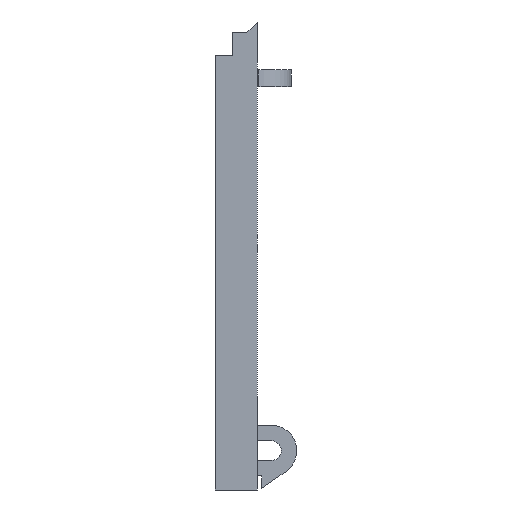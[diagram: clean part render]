
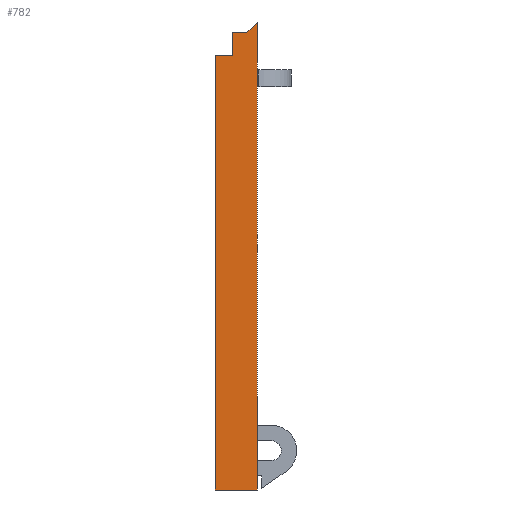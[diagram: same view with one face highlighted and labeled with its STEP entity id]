
A CAD part, left-side view. The second image highlights one B-rep face of the part: STEP entity #782.
In plain terms, the highlighted planar face has unit normal (-1, 0, 0).
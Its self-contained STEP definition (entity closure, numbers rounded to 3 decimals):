
#27 = CARTESIAN_POINT ( 'NONE',  ( -27.42, 3., -15.45 ) ) ;
#68 = CARTESIAN_POINT ( 'NONE',  ( -27.42, 3., 15.45 ) ) ;
#79 = DIRECTION ( 'NONE',  ( 0., 0., 1. ) ) ;
#108 = VERTEX_POINT ( 'NONE', #1126 ) ;
#109 = ORIENTED_EDGE ( 'NONE', *, *, #762, .T. ) ;
#121 = ORIENTED_EDGE ( 'NONE', *, *, #1271, .T. ) ;
#132 = VERTEX_POINT ( 'NONE', #1335 ) ;
#173 = VECTOR ( 'NONE', #387, 1000. ) ;
#197 = CARTESIAN_POINT ( 'NONE',  ( -27.42, 1.75, 17.098 ) ) ;
#215 = VECTOR ( 'NONE', #693, 1000. ) ;
#223 = CARTESIAN_POINT ( 'NONE',  ( -27.42, 1.75, 15.45 ) ) ;
#256 = CARTESIAN_POINT ( 'NONE',  ( -27.42, 0., -15.45 ) ) ;
#285 = LINE ( 'NONE', #993, #215 ) ;
#287 = VECTOR ( 'NONE', #1273, 1000. ) ;
#319 = DIRECTION ( 'NONE',  ( 0., 0., -1. ) ) ;
#349 = EDGE_CURVE ( 'NONE', #132, #1143, #386, .T. ) ;
#386 = LINE ( 'NONE', #391, #173 ) ;
#387 = DIRECTION ( 'NONE',  ( 0., -1., 0. ) ) ;
#391 = CARTESIAN_POINT ( 'NONE',  ( -27.42, 3., -15.45 ) ) ;
#435 = EDGE_CURVE ( 'NONE', #1143, #1185, #1340, .T. ) ;
#439 = VECTOR ( 'NONE', #319, 1000. ) ;
#441 = VERTEX_POINT ( 'NONE', #68 ) ;
#448 = CARTESIAN_POINT ( 'NONE',  ( -27.42, 0., 17.848 ) ) ;
#454 = LINE ( 'NONE', #27, #287 ) ;
#458 = LINE ( 'NONE', #223, #439 ) ;
#482 = LINE ( 'NONE', #732, #987 ) ;
#507 = CARTESIAN_POINT ( 'NONE',  ( -27.42, 3., -15.45 ) ) ;
#536 = CARTESIAN_POINT ( 'NONE',  ( -27.42, 18.149, -0.301 ) ) ;
#551 = DIRECTION ( 'NONE',  ( 0., 1., 0. ) ) ;
#581 = DIRECTION ( 'NONE',  ( 0., 0.707, -0.707 ) ) ;
#610 = EDGE_CURVE ( 'NONE', #633, #108, #458, .T. ) ;
#633 = VERTEX_POINT ( 'NONE', #197 ) ;
#693 = DIRECTION ( 'NONE',  ( 0., -1., 0. ) ) ;
#713 = FACE_OUTER_BOUND ( 'NONE', #1258, .T. ) ;
#732 = CARTESIAN_POINT ( 'NONE',  ( -27.42, 3., 17.098 ) ) ;
#762 = EDGE_CURVE ( 'NONE', #1185, #827, #1254, .T. ) ;
#782 = ADVANCED_FACE ( 'NONE', ( #713 ), #802, .F. ) ;
#795 = AXIS2_PLACEMENT_3D ( 'NONE', #507, #1142, #1150 ) ;
#802 = PLANE ( 'NONE',  #795 ) ;
#808 = ORIENTED_EDGE ( 'NONE', *, *, #811, .F. ) ;
#811 = EDGE_CURVE ( 'NONE', #441, #108, #285, .T. ) ;
#827 = VERTEX_POINT ( 'NONE', #1309 ) ;
#841 = CARTESIAN_POINT ( 'NONE',  ( -27.42, 0., -15.45 ) ) ;
#842 = ORIENTED_EDGE ( 'NONE', *, *, #349, .T. ) ;
#900 = ORIENTED_EDGE ( 'NONE', *, *, #435, .T. ) ;
#936 = ORIENTED_EDGE ( 'NONE', *, *, #1098, .F. ) ;
#987 = VECTOR ( 'NONE', #551, 1000. ) ;
#993 = CARTESIAN_POINT ( 'NONE',  ( -27.42, 3., 15.45 ) ) ;
#1098 = EDGE_CURVE ( 'NONE', #132, #441, #454, .T. ) ;
#1126 = CARTESIAN_POINT ( 'NONE',  ( -27.42, 1.75, 15.45 ) ) ;
#1142 = DIRECTION ( 'NONE',  ( 1., 0., 0. ) ) ;
#1143 = VERTEX_POINT ( 'NONE', #841 ) ;
#1145 = VECTOR ( 'NONE', #581, 1000. ) ;
#1150 = DIRECTION ( 'NONE',  ( 0., 0., -1. ) ) ;
#1185 = VERTEX_POINT ( 'NONE', #448 ) ;
#1208 = ORIENTED_EDGE ( 'NONE', *, *, #610, .T. ) ;
#1241 = VECTOR ( 'NONE', #79, 1000. ) ;
#1254 = LINE ( 'NONE', #536, #1145 ) ;
#1258 = EDGE_LOOP ( 'NONE', ( #109, #121, #1208, #808, #936, #842, #900 ) ) ;
#1271 = EDGE_CURVE ( 'NONE', #827, #633, #482, .T. ) ;
#1273 = DIRECTION ( 'NONE',  ( 0., 0., 1. ) ) ;
#1309 = CARTESIAN_POINT ( 'NONE',  ( -27.42, 0.75, 17.098 ) ) ;
#1335 = CARTESIAN_POINT ( 'NONE',  ( -27.42, 3., -15.45 ) ) ;
#1340 = LINE ( 'NONE', #256, #1241 ) ;
